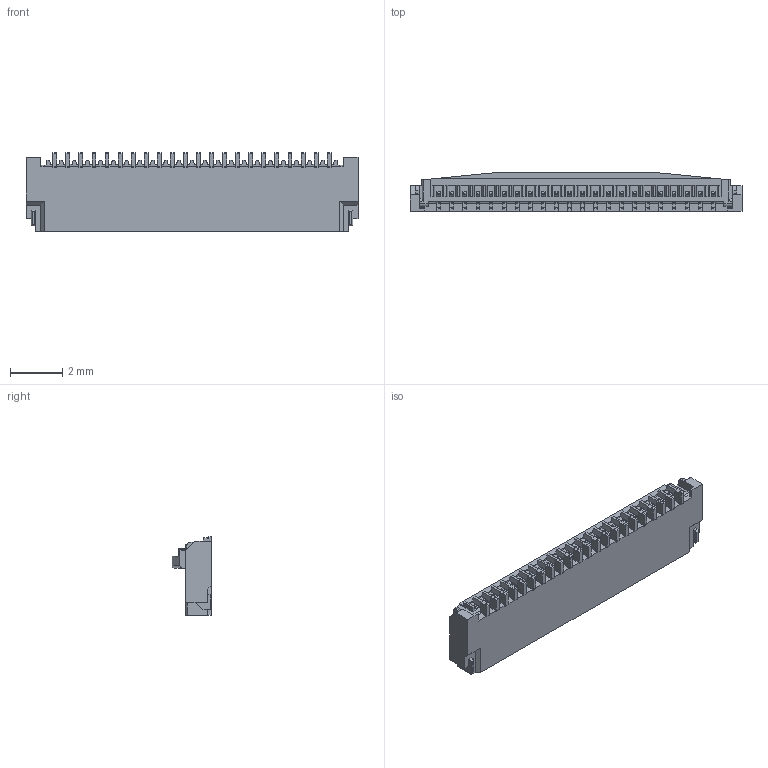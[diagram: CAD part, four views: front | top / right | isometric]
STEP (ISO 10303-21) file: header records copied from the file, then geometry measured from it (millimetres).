
FILE_DESCRIPTION (( 'STEP AP203' ), '1' );
FILE_NAME ('20542-022E-01C ACT OPEN STEP R1 ALL.STEP', '2013-03-20T08:29:56', ( '' ), ( '' ), 'SwSTEP 2.0', 'SolidWorks 2011', '' );
FILE_SCHEMA (( 'CONFIG_CONTROL_DESIGN' ));
Length unit declared in the file: millimetre
Products named in the file (1): 20542-022E-01C ACT OPEN STEP R1 ALL
Bounding box: 12.7 x 1.52 x 3 mm (x, y, z)
Volume: 33.5 mm3; surface area: 122.5 mm2
Topology: 1 solids, 1 shells, 759 faces, 2287 edges, 1506 vertices
Faces by surface type: plane 569, cylinder 188, sphere 2
Entity records: 25580 total; most frequent: CARTESIAN_POINT 4833, ORIENTED_EDGE 4570, DIRECTION 4083, EDGE_CURVE 2285, LINE 1819, VECTOR 1819, VERTEX_POINT 1506, AXIS2_PLACEMENT_3D 1132
